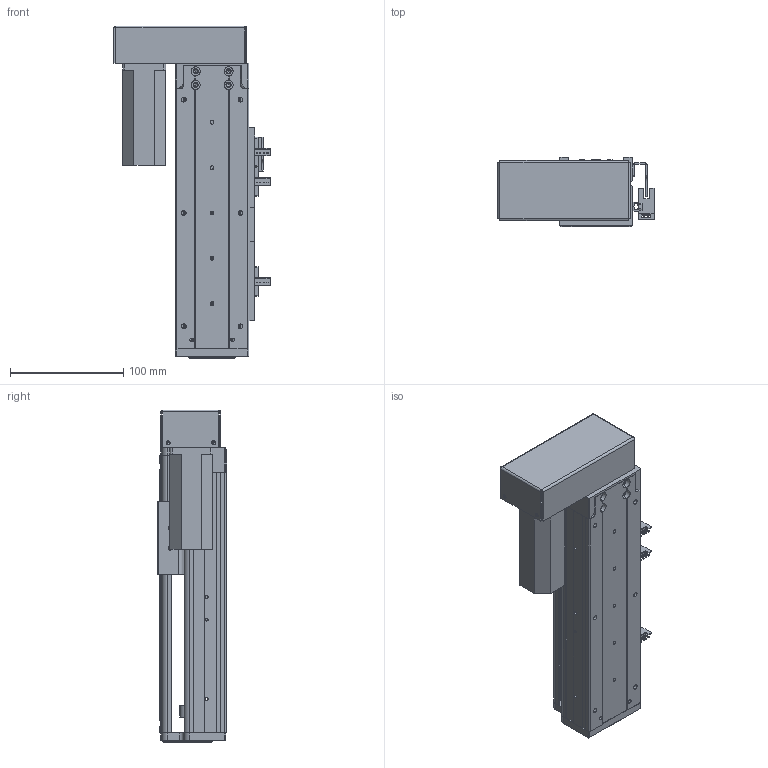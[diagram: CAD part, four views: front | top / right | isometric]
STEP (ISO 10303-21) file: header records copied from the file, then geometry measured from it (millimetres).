
FILE_DESCRIPTION (( 'STEP AP203' ), '1' );
FILE_NAME ('RY60-L1210-300-LK.SLDASM_100.step', '2021-02-20T06:53:45', ( '盈信电脑' ), ( '东莞市道滘镇水果街19号' ), 'SwSTEP 2.0', 'SolidWorks 2012', '' );
FILE_SCHEMA (( 'CONFIG_CONTROL_DESIGN' ));
Length unit declared in the file: millimetre
Products named in the file (14): RY60-L1210-300-LK.SLDASM_100; RY60酘衵殏萇儂欶; 侂狟100W; 滅袉蝶18-10; RY60转折电机端支撑座; RY60左右折电机安装板-PCD46-M4; RY80俋离覜茼え; 672嫖萇羲壽假蚾釱; RY60-300倰第裔啣-LK_100; 覜茼ん672; RY60綴裔啣; RY60-300-MGW12絳寢-LK_100; RY60臏賑輸; RY60-300倰第菁釱-LK_100
Assembly tree (19 placements, depth 2):
  RY60-L1210-300-LK.SLDASM_100
    RY60-300倰第菁釱-LK_100
    RY60-300-MGW12絳寢-LK_100
    RY60臏賑輸
    RY60-300倰第裔啣-LK_100
    672嫖萇羲壽假蚾釱  x2
    RY60綴裔啣
    覜茼ん672  x3
    RY80俋离覜茼え
    滅袉蝶18-10  x4
    RY60转折电机端支撑座
    RY60左右折电机安装板-PCD46-M4
    侂狟100W
    RY60酘衵殏萇儂欶
Bounding box: 137.9 x 61 x 293 mm (x, y, z)
Volume: 575785.5 mm3; surface area: 270064.7 mm2
Topology: 19 solids, 19 shells, 1386 faces, 3821 edges, 2450 vertices
Faces by surface type: plane 700, cylinder 569, cone 100, bspline 17
Entity records: 40307 total; most frequent: CARTESIAN_POINT 9039, ORIENTED_EDGE 6226, DIRECTION 6119, EDGE_CURVE 3113, AXIS2_PLACEMENT_3D 2100, VERTEX_POINT 2030, LINE 1919, VECTOR 1919
